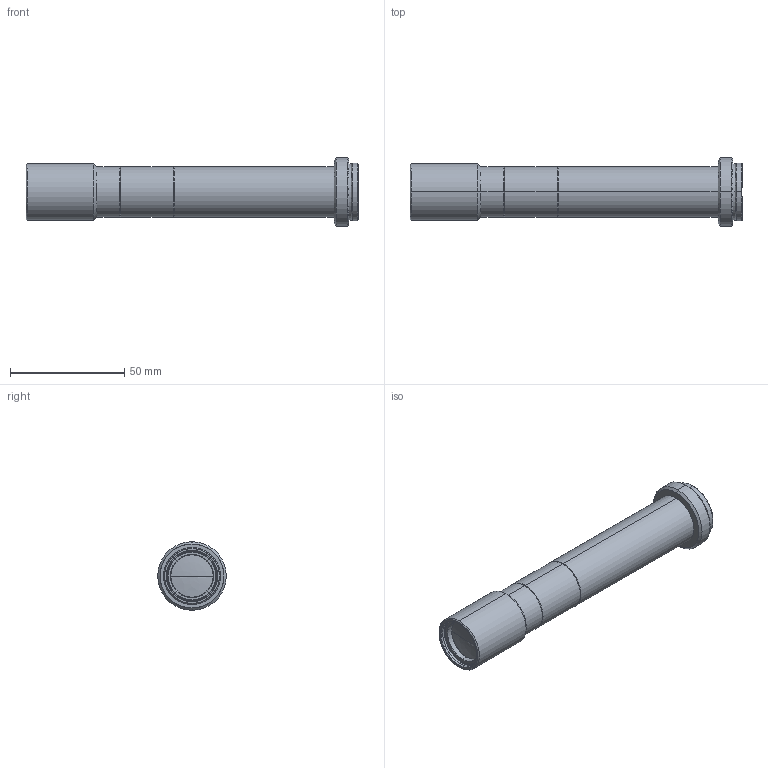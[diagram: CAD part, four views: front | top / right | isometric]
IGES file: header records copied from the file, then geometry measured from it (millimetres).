
Start section: SolidWorks IGES file using analytic representation for surfaces
Bounding box: 145.5 x 30 x 30 mm (x, y, z)
Surface area: 16689.8 mm2 (no closed solid volume)
Topology: 0 solids, 0 shells, 100 faces, 1072 edges, 1070 vertices
Faces by surface type: revolution 90, bspline 10
